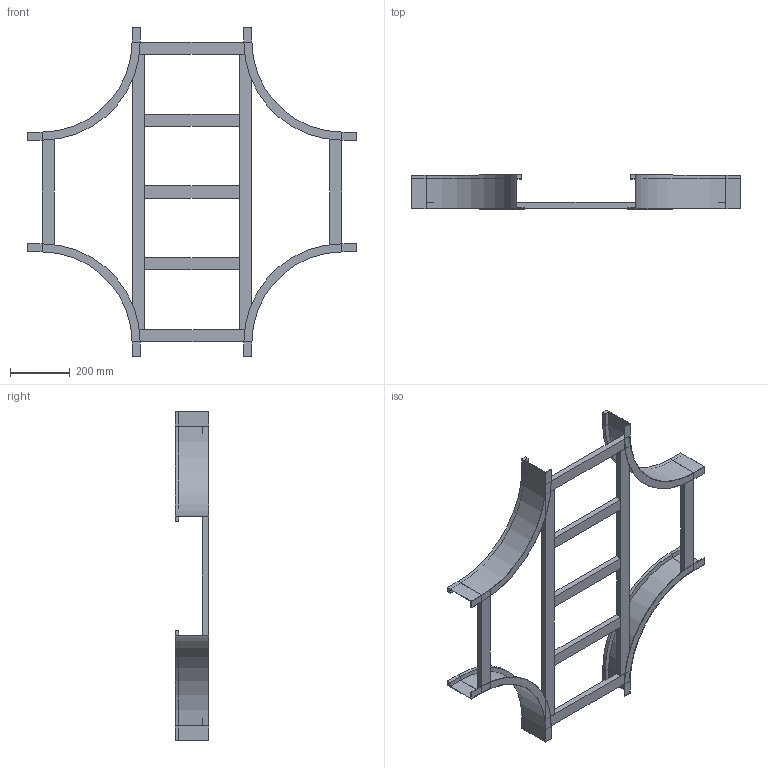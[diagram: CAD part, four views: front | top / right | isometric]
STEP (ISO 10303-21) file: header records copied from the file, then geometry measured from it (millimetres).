
FILE_DESCRIPTION (( 'STEP AP214' ), '1' );
FILE_NAME ('B2_17B3J400.step', '2025-02-21T15:57:17', ( '' ), ( '' ), 'SwSTEP 2.0', 'SolidWorks 2023', '' );
FILE_SCHEMA (( 'AUTOMOTIVE_DESIGN' ));
Length unit declared in the file: millimetre
Products named in the file (5): TRAVERSINO_400; B2_TRAVERSINO_LONG._R300+400; B2_17B3J400; TRAVERSINO_INTERMEDIO_R300+400; B2_LONGH.INTERNO 90°_H112.5_R300
Assembly tree (13 placements, depth 2):
  B2_17B3J400
    B2_LONGH.INTERNO 90°_H112.5_R300  x4
    TRAVERSINO_400  x4
    B2_TRAVERSINO_LONG._R300+400  x2
    TRAVERSINO_INTERMEDIO_R300+400  x3
Bounding box: 1100 x 112.5 x 1100 mm (x, y, z)
Volume: 4622377 mm3; surface area: 1266869.5 mm2
Topology: 13 solids, 13 shells, 158 faces, 332 edges, 200 vertices
Faces by surface type: plane 142, cylinder 16
Entity records: 1362 total; most frequent: DIRECTION 220, CARTESIAN_POINT 208, ORIENTED_EDGE 184, EDGE_CURVE 92, LINE 84, VECTOR 84, AXIS2_PLACEMENT_3D 68, VERTEX_POINT 56
